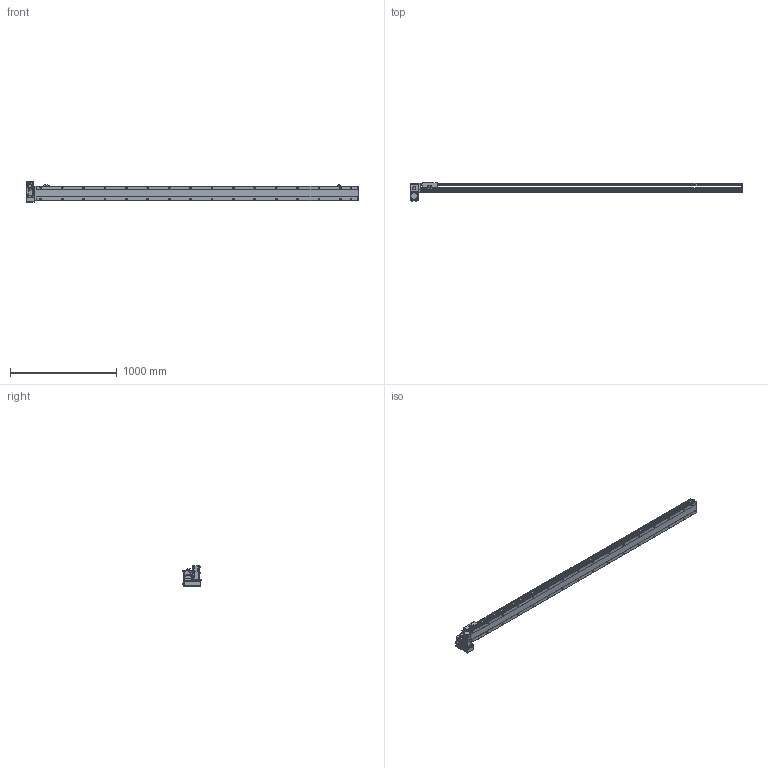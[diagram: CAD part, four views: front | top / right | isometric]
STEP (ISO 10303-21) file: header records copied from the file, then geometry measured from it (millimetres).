
FILE_DESCRIPTION(/* description */ ('STEP AP214'),/* implementation_level */ '2;1');
FILE_NAME(/* name */ 'PBS140S-P40-S2750-LD-T40-C1-N(0)',/* time_stamp */ '2022-06-09T02:29:29+02:00',/* author */ ('License CC BY-ND 4.0'),/* organization */ ('CADENAS'),/* preprocessor_version */ 'ST-DEVELOPER v18.102',/* originating_system */ 'PARTsolutions',/* authorisation */ ' ');
FILE_SCHEMA (('AUTOMOTIVE_DESIGN {1 0 10303 214 3 1 1}'));
Length unit declared in the file: millimetre
Products named in the file (7): PBS140S-P40-S2750-LD-T40-C1-N(0); PBS140S_sensor; PBS140S_plant; PBS140S_sliser; T40-p1; PBS140ST-LD_motors; PBS140S-S2750()_body
Assembly tree (8 placements, depth 2):
  PBS140S-P40-S2750-LD-T40-C1-N(0)
    PBS140S_sensor  x3
    PBS140S_plant
    PBS140S_sliser
    T40-p1
    PBS140ST-LD_motors
    PBS140S-S2750()_body
Bounding box: 3104 x 172.5 x 189.7 mm (x, y, z)
Volume: 15007797.6 mm3; surface area: 2523406.1 mm2
Topology: 8 solids, 8 shells, 1227 faces, 3231 edges, 2113 vertices
Faces by surface type: plane 750, cylinder 409, cone 58, sphere 8, torus 2
Full cylindrical faces by diameter (mm): 3.242 x4, 4 x2, 4.134 x4, 4.4 x8, 4.5 x2, 4.8 x4, 4.917 x40, 5.5 x7, 6 x2, 7 x34, 7.5 x8, 8 x12, 8.5 x4, 10.5 x32, 14 x1, 30 x2, 50 x2
Entity records: 35160 total; most frequent: CARTESIAN_POINT 6712, DIRECTION 5908, ORIENTED_EDGE 5542, EDGE_CURVE 2771, AXIS2_PLACEMENT_3D 2099, VERTEX_POINT 1945, LINE 1710, VECTOR 1710
